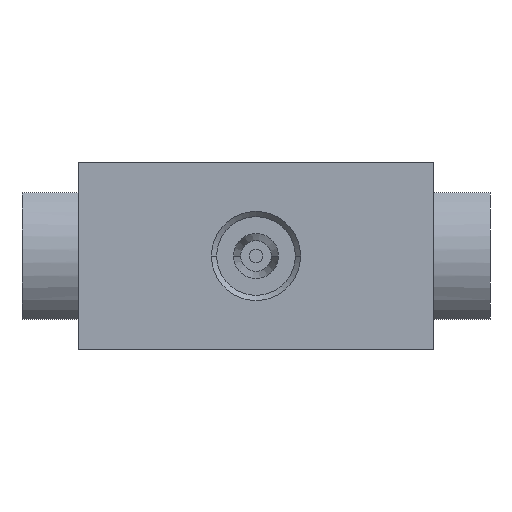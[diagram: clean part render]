
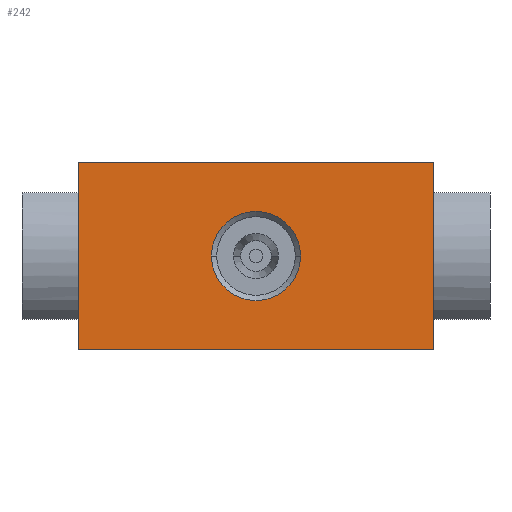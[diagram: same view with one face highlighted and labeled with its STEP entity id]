
A CAD part, front view. The second image highlights one B-rep face of the part: STEP entity #242.
In plain terms, the highlighted planar face has unit normal (0, -1, 0).
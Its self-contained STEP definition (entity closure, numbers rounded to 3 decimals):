
#113 = CARTESIAN_POINT ( 'NONE',  ( 19., -22.5, 10. ) ) ;
#114 = AXIS2_PLACEMENT_3D ( 'NONE', #2446, #2243, #1700 ) ;
#135 = ORIENTED_EDGE ( 'NONE', *, *, #300, .F. ) ;
#161 = CARTESIAN_POINT ( 'NONE',  ( -19., -22.5, 10. ) ) ;
#206 = ORIENTED_EDGE ( 'NONE', *, *, #1244, .T. ) ;
#236 = VERTEX_POINT ( 'NONE', #752 ) ;
#242 = ADVANCED_FACE ( 'NONE', ( #1295, #571 ), #2075, .F. ) ;
#296 = CARTESIAN_POINT ( 'NONE',  ( -19., -22.5, -10. ) ) ;
#300 = EDGE_CURVE ( 'NONE', #1929, #2410, #2406, .T. ) ;
#302 = EDGE_LOOP ( 'NONE', ( #206, #135, #1099, #2316 ) ) ;
#307 = DIRECTION ( 'NONE',  ( 1., 0., 0. ) ) ;
#384 = CARTESIAN_POINT ( 'NONE',  ( -19., -22.5, 10. ) ) ;
#435 = CIRCLE ( 'NONE', #114, 4.76 ) ;
#523 = CARTESIAN_POINT ( 'NONE',  ( -4.76, -22.5, 0. ) ) ;
#529 = ORIENTED_EDGE ( 'NONE', *, *, #2055, .T. ) ;
#541 = DIRECTION ( 'NONE',  ( 0., 1., 0. ) ) ;
#571 = FACE_OUTER_BOUND ( 'NONE', #302, .T. ) ;
#717 = DIRECTION ( 'NONE',  ( 0., 0., -1. ) ) ;
#752 = CARTESIAN_POINT ( 'NONE',  ( 4.76, -22.5, 0. ) ) ;
#880 = EDGE_CURVE ( 'NONE', #1388, #1929, #1504, .T. ) ;
#897 = CARTESIAN_POINT ( 'NONE',  ( 19., -22.5, -10. ) ) ;
#905 = VECTOR ( 'NONE', #307, 1000. ) ;
#940 = CARTESIAN_POINT ( 'NONE',  ( -19., -22.5, -10. ) ) ;
#1078 = CARTESIAN_POINT ( 'NONE',  ( 0., -22.5, 0. ) ) ;
#1082 = LINE ( 'NONE', #296, #905 ) ;
#1091 = ORIENTED_EDGE ( 'NONE', *, *, #2371, .T. ) ;
#1099 = ORIENTED_EDGE ( 'NONE', *, *, #880, .F. ) ;
#1193 = AXIS2_PLACEMENT_3D ( 'NONE', #1078, #1813, #1656 ) ;
#1207 = VERTEX_POINT ( 'NONE', #940 ) ;
#1244 = EDGE_CURVE ( 'NONE', #1207, #2410, #1082, .T. ) ;
#1295 = FACE_BOUND ( 'NONE', #1716, .T. ) ;
#1318 = CIRCLE ( 'NONE', #1193, 4.76 ) ;
#1330 = DIRECTION ( 'NONE',  ( 1., 0., 0. ) ) ;
#1351 = VERTEX_POINT ( 'NONE', #523 ) ;
#1388 = VERTEX_POINT ( 'NONE', #161 ) ;
#1478 = DIRECTION ( 'NONE',  ( -1., 0., 0. ) ) ;
#1504 = LINE ( 'NONE', #1516, #1918 ) ;
#1516 = CARTESIAN_POINT ( 'NONE',  ( -19., -22.5, 10. ) ) ;
#1656 = DIRECTION ( 'NONE',  ( -1., 0., 0. ) ) ;
#1700 = DIRECTION ( 'NONE',  ( -1., 0., 0. ) ) ;
#1716 = EDGE_LOOP ( 'NONE', ( #1091, #529 ) ) ;
#1813 = DIRECTION ( 'NONE',  ( 0., 1., 0. ) ) ;
#1821 = DIRECTION ( 'NONE',  ( 0., 0., -1. ) ) ;
#1918 = VECTOR ( 'NONE', #1330, 1000. ) ;
#1929 = VERTEX_POINT ( 'NONE', #113 ) ;
#1932 = AXIS2_PLACEMENT_3D ( 'NONE', #384, #541, #1478 ) ;
#1977 = EDGE_CURVE ( 'NONE', #1388, #1207, #2210, .T. ) ;
#2021 = VECTOR ( 'NONE', #1821, 1000. ) ;
#2055 = EDGE_CURVE ( 'NONE', #1351, #236, #1318, .T. ) ;
#2075 = PLANE ( 'NONE',  #1932 ) ;
#2210 = LINE ( 'NONE', #2422, #2021 ) ;
#2243 = DIRECTION ( 'NONE',  ( 0., 1., 0. ) ) ;
#2316 = ORIENTED_EDGE ( 'NONE', *, *, #1977, .T. ) ;
#2332 = VECTOR ( 'NONE', #717, 1000. ) ;
#2371 = EDGE_CURVE ( 'NONE', #236, #1351, #435, .T. ) ;
#2406 = LINE ( 'NONE', #2417, #2332 ) ;
#2410 = VERTEX_POINT ( 'NONE', #897 ) ;
#2417 = CARTESIAN_POINT ( 'NONE',  ( 19., -22.5, 10. ) ) ;
#2422 = CARTESIAN_POINT ( 'NONE',  ( -19., -22.5, 10. ) ) ;
#2446 = CARTESIAN_POINT ( 'NONE',  ( 0., -22.5, 0. ) ) ;
